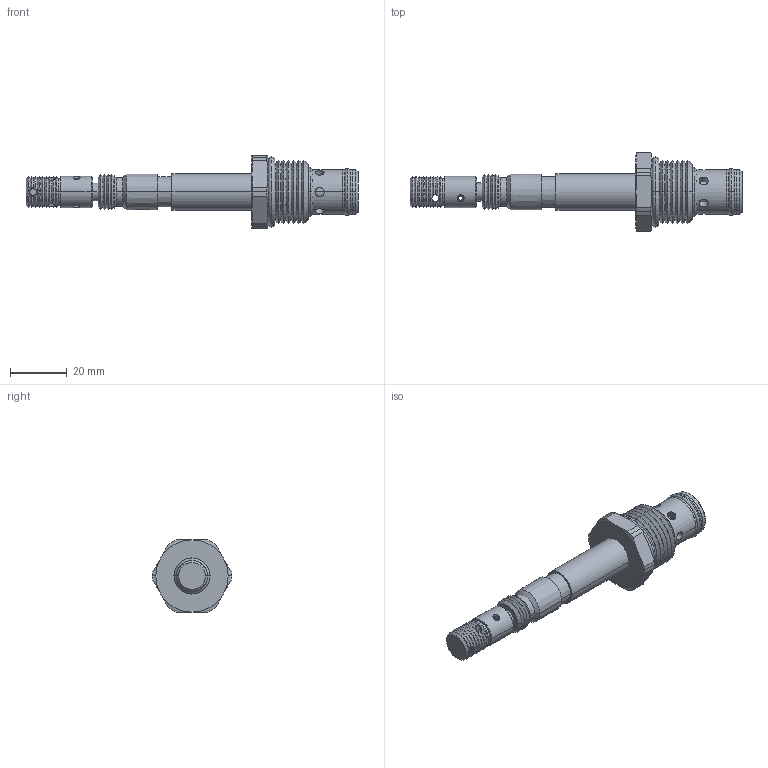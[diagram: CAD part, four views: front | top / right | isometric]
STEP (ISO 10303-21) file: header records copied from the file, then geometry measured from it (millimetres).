
FILE_DESCRIPTION((''),'2;1');
FILE_NAME('U:\Solid model CD\Solid model full\Solenoid\STEP\DES2H0M-3D Full.stp','2008-06-23T08:24:36',('Dan'),(''),'Autodesk Inventor 9','Autodesk Inventor 9','');
FILE_SCHEMA(('AUTOMOTIVE_DESIGN { 1 0 10303 214 1 1 1 1 }'));
Length unit declared in the file: inch
Products named in the file (8): DES2H0M-3D Full; DES2H0M-3D Full1; DES2H0M-3D Full2; DES2H0M-3D Full3; DES2H0M-3D Full4; DES2H0M-3D Full5; DES2H0M-3D Full6; DES2H0M-3D Full7
Assembly tree (7 placements, depth 2):
  DES2H0M-3D Full
    DES2H0M-3D Full1
    DES2H0M-3D Full2
    DES2H0M-3D Full3
    DES2H0M-3D Full4
    DES2H0M-3D Full5
    DES2H0M-3D Full6
    DES2H0M-3D Full7
Bounding box: 116.64 x 27.76 x 25.4 mm (x, y, z)
Volume: 19267.2 mm3; surface area: 9383.3 mm2
Topology: 7 solids, 7 shells, 377 faces, 839 edges, 489 vertices
Faces by surface type: cone 250, cylinder 80, plane 35, torus 8, bspline 4
Entity records: 11277 total; most frequent: CARTESIAN_POINT 2754, DIRECTION 1868, ORIENTED_EDGE 1678, EDGE_CURVE 839, AXIS2_PLACEMENT_3D 787, VERTEX_POINT 489, EDGE_LOOP 404, CIRCLE 399
